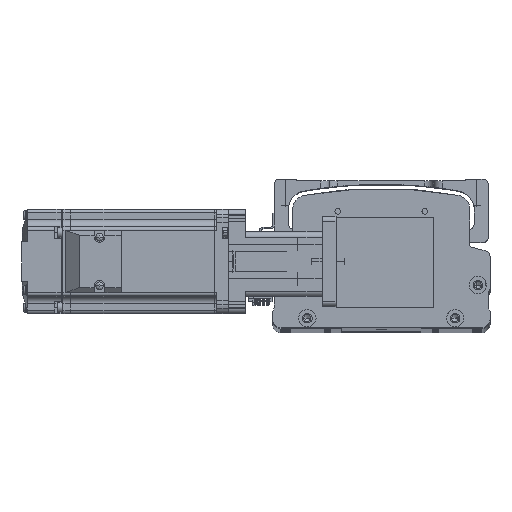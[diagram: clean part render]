
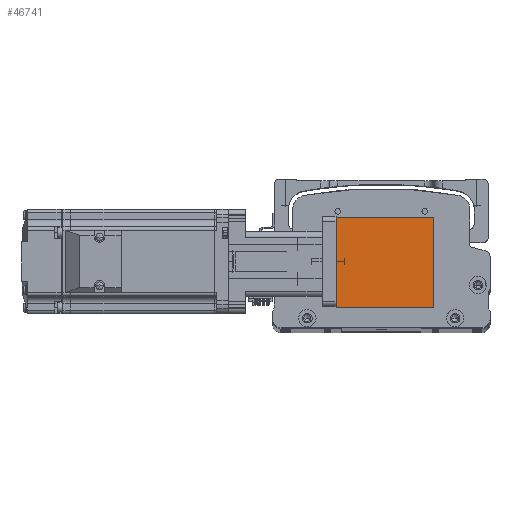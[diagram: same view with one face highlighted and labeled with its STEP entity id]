
A CAD part, top view. The second image highlights one B-rep face of the part: STEP entity #46741.
In plain terms, the highlighted planar face has unit normal (0, 0, 1) as drawn and (-1, 0, 0) by its records, which use the part's own axes.
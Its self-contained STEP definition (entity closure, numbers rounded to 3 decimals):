
#211 = VERTEX_POINT ( 'NONE', #37231 ) ;
#217 = VECTOR ( 'NONE', #25602, 1000. ) ;
#2121 = ORIENTED_EDGE ( 'NONE', *, *, #15493, .T. ) ;
#3047 = ORIENTED_EDGE ( 'NONE', *, *, #25717, .F. ) ;
#5209 = ORIENTED_EDGE ( 'NONE', *, *, #15060, .F. ) ;
#7387 = LINE ( 'NONE', #15668, #19018 ) ;
#8157 = EDGE_LOOP ( 'NONE', ( #2121, #3047, #5209, #55083 ) ) ;
#10963 = DIRECTION ( 'NONE',  ( 0., 0., -1. ) ) ;
#15060 = EDGE_CURVE ( 'NONE', #22709, #211, #7387, .T. ) ;
#15493 = EDGE_CURVE ( 'NONE', #18209, #25370, #39940, .T. ) ;
#15668 = CARTESIAN_POINT ( 'NONE',  ( -31.5, -26., 56. ) ) ;
#18209 = VERTEX_POINT ( 'NONE', #55607 ) ;
#19018 = VECTOR ( 'NONE', #50469, 1000. ) ;
#20583 = CARTESIAN_POINT ( 'NONE',  ( -31.5, -26., 0. ) ) ;
#22559 = CARTESIAN_POINT ( 'NONE',  ( -31.5, 26., 56. ) ) ;
#22709 = VERTEX_POINT ( 'NONE', #22559 ) ;
#25370 = VERTEX_POINT ( 'NONE', #42438 ) ;
#25602 = DIRECTION ( 'NONE',  ( 0., -1., 0. ) ) ;
#25717 = EDGE_CURVE ( 'NONE', #211, #25370, #42995, .T. ) ;
#29720 = VECTOR ( 'NONE', #10963, 1000. ) ;
#30161 = DIRECTION ( 'NONE',  ( 0., 0., -1. ) ) ;
#31410 = FACE_OUTER_BOUND ( 'NONE', #8157, .T. ) ;
#33518 = LINE ( 'NONE', #41527, #58472 ) ;
#36282 = AXIS2_PLACEMENT_3D ( 'NONE', #49922, #59980, #30161 ) ;
#36447 = DIRECTION ( 'NONE',  ( 0., 0., -1. ) ) ;
#37231 = CARTESIAN_POINT ( 'NONE',  ( -31.5, -26., 56. ) ) ;
#39927 = PLANE ( 'NONE',  #36282 ) ;
#39940 = LINE ( 'NONE', #20583, #217 ) ;
#41527 = CARTESIAN_POINT ( 'NONE',  ( -31.5, 26., 56. ) ) ;
#42438 = CARTESIAN_POINT ( 'NONE',  ( -31.5, -26., 0. ) ) ;
#42995 = LINE ( 'NONE', #60624, #29720 ) ;
#46741 = ADVANCED_FACE ( 'NONE', ( #31410 ), #39927, .F. ) ;
#48170 = EDGE_CURVE ( 'NONE', #22709, #18209, #33518, .T. ) ;
#49922 = CARTESIAN_POINT ( 'NONE',  ( -31.5, -26., 56. ) ) ;
#50469 = DIRECTION ( 'NONE',  ( 0., -1., 0. ) ) ;
#55083 = ORIENTED_EDGE ( 'NONE', *, *, #48170, .T. ) ;
#55607 = CARTESIAN_POINT ( 'NONE',  ( -31.5, 26., 0. ) ) ;
#58472 = VECTOR ( 'NONE', #36447, 1000. ) ;
#59980 = DIRECTION ( 'NONE',  ( 1., 0., 0. ) ) ;
#60624 = CARTESIAN_POINT ( 'NONE',  ( -31.5, -26., 56. ) ) ;
